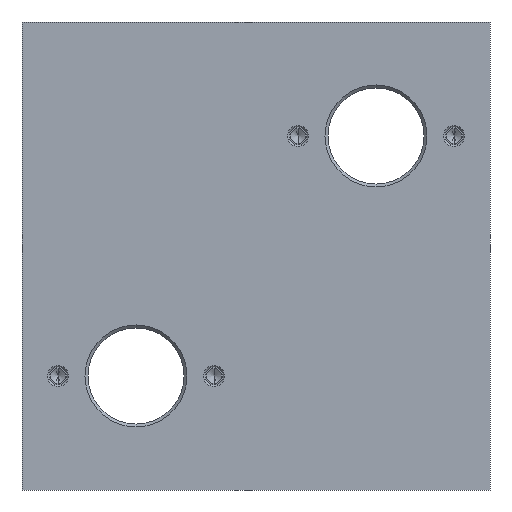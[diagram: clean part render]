
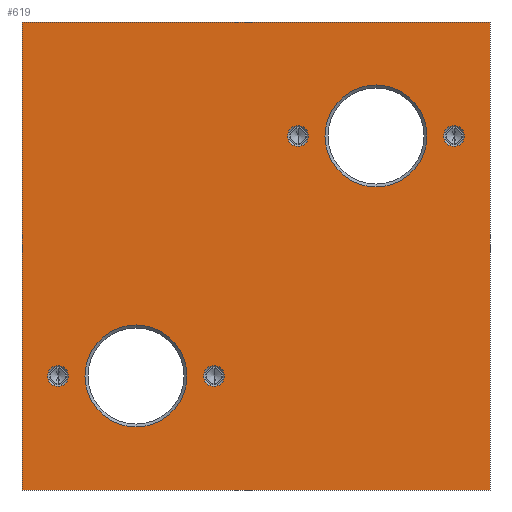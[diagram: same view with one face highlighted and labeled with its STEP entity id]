
A CAD part, front view. The second image highlights one B-rep face of the part: STEP entity #619.
In plain terms, the highlighted planar face has unit normal (0, -1, 0).
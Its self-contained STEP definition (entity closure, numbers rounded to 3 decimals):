
#12 = CARTESIAN_POINT ( 'NONE',  ( 0., 0., 0. ) ) ;
#16 = DIRECTION ( 'NONE',  ( 0., 1., 0. ) ) ;
#27 = CARTESIAN_POINT ( 'NONE',  ( -14., 0., -40. ) ) ;
#49 = AXIS2_PLACEMENT_3D ( 'NONE', #944, #16, #82 ) ;
#59 = DIRECTION ( 'NONE',  ( 0., 0., 1. ) ) ;
#66 = DIRECTION ( 'NONE',  ( 0., 0., -1. ) ) ;
#71 = DIRECTION ( 'NONE',  ( 0., 1., 0. ) ) ;
#74 = DIRECTION ( 'NONE',  ( 0., 0., 1. ) ) ;
#79 = CARTESIAN_POINT ( 'NONE',  ( -66., 0., -43.5 ) ) ;
#82 = DIRECTION ( 'NONE',  ( 0., 0., 1. ) ) ;
#93 = EDGE_LOOP ( 'NONE', ( #319, #755, #1382, #195 ) ) ;
#98 = CIRCLE ( 'NONE', #186, 17. ) ;
#105 = VERTEX_POINT ( 'NONE', #208 ) ;
#113 = EDGE_CURVE ( 'NONE', #1385, #1341, #952, .T. ) ;
#122 = DIRECTION ( 'NONE',  ( 0., 0., 1. ) ) ;
#125 = AXIS2_PLACEMENT_3D ( 'NONE', #244, #1038, #367 ) ;
#128 = EDGE_CURVE ( 'NONE', #1296, #1447, #352, .T. ) ;
#131 = VECTOR ( 'NONE', #74, 1000. ) ;
#141 = CARTESIAN_POINT ( 'NONE',  ( -78., 0., -78. ) ) ;
#143 = ORIENTED_EDGE ( 'NONE', *, *, #693, .T. ) ;
#147 = DIRECTION ( 'NONE',  ( 0., 0., 1. ) ) ;
#150 = AXIS2_PLACEMENT_3D ( 'NONE', #405, #1201, #518 ) ;
#170 = CARTESIAN_POINT ( 'NONE',  ( 78., 0., 78. ) ) ;
#182 = EDGE_LOOP ( 'NONE', ( #955, #201 ) ) ;
#186 = AXIS2_PLACEMENT_3D ( 'NONE', #1317, #635, #1430 ) ;
#193 = EDGE_LOOP ( 'NONE', ( #143, #437 ) ) ;
#195 = ORIENTED_EDGE ( 'NONE', *, *, #902, .F. ) ;
#199 = EDGE_CURVE ( 'NONE', #791, #375, #1154, .T. ) ;
#201 = ORIENTED_EDGE ( 'NONE', *, *, #1014, .T. ) ;
#204 = LINE ( 'NONE', #1066, #1373 ) ;
#208 = CARTESIAN_POINT ( 'NONE',  ( 14., 0., 43.5 ) ) ;
#211 = VECTOR ( 'NONE', #66, 1000. ) ;
#217 = DIRECTION ( 'NONE',  ( 0., 1., 0. ) ) ;
#218 = EDGE_CURVE ( 'NONE', #1447, #1296, #1380, .T. ) ;
#230 = CARTESIAN_POINT ( 'NONE',  ( 66., 0., 40. ) ) ;
#237 = ORIENTED_EDGE ( 'NONE', *, *, #113, .T. ) ;
#244 = CARTESIAN_POINT ( 'NONE',  ( 14., 0., 40. ) ) ;
#258 = AXIS2_PLACEMENT_3D ( 'NONE', #1252, #217, #682 ) ;
#259 = DIRECTION ( 'NONE',  ( 0., 1., 0. ) ) ;
#265 = ORIENTED_EDGE ( 'NONE', *, *, #1216, .T. ) ;
#266 = VERTEX_POINT ( 'NONE', #1413 ) ;
#275 = FACE_BOUND ( 'NONE', #182, .T. ) ;
#298 = CIRCLE ( 'NONE', #462, 17. ) ;
#303 = ORIENTED_EDGE ( 'NONE', *, *, #307, .T. ) ;
#307 = EDGE_CURVE ( 'NONE', #950, #1121, #977, .T. ) ;
#308 = AXIS2_PLACEMENT_3D ( 'NONE', #750, #71, #859 ) ;
#319 = ORIENTED_EDGE ( 'NONE', *, *, #683, .F. ) ;
#352 = CIRCLE ( 'NONE', #49, 3.5 ) ;
#367 = DIRECTION ( 'NONE',  ( 0., 0., 1. ) ) ;
#375 = VERTEX_POINT ( 'NONE', #1158 ) ;
#386 = CARTESIAN_POINT ( 'NONE',  ( 14., 0., 36.5 ) ) ;
#404 = CARTESIAN_POINT ( 'NONE',  ( -40., 0., -40. ) ) ;
#405 = CARTESIAN_POINT ( 'NONE',  ( 14., 0., 40. ) ) ;
#410 = DIRECTION ( 'NONE',  ( 0., 1., 0. ) ) ;
#437 = ORIENTED_EDGE ( 'NONE', *, *, #814, .T. ) ;
#439 = AXIS2_PLACEMENT_3D ( 'NONE', #961, #848, #59 ) ;
#446 = CIRCLE ( 'NONE', #1483, 17. ) ;
#460 = EDGE_LOOP ( 'NONE', ( #303, #265 ) ) ;
#462 = AXIS2_PLACEMENT_3D ( 'NONE', #617, #723, #820 ) ;
#475 = DIRECTION ( 'NONE',  ( 0., 1., 0. ) ) ;
#481 = EDGE_CURVE ( 'NONE', #266, #1463, #910, .T. ) ;
#511 = LINE ( 'NONE', #517, #131 ) ;
#517 = CARTESIAN_POINT ( 'NONE',  ( -78., 0., 78. ) ) ;
#518 = DIRECTION ( 'NONE',  ( 0., 0., 1. ) ) ;
#529 = DIRECTION ( 'NONE',  ( 0., 0., 1. ) ) ;
#537 = EDGE_LOOP ( 'NONE', ( #1111, #237 ) ) ;
#538 = VERTEX_POINT ( 'NONE', #1017 ) ;
#549 = FACE_BOUND ( 'NONE', #1298, .T. ) ;
#561 = VERTEX_POINT ( 'NONE', #1227 ) ;
#563 = EDGE_LOOP ( 'NONE', ( #1204, #785 ) ) ;
#615 = DIRECTION ( 'NONE',  ( -1., 0., 0. ) ) ;
#617 = CARTESIAN_POINT ( 'NONE',  ( -40., 0., -40. ) ) ;
#619 = ADVANCED_FACE ( 'NONE', ( #1186, #1460, #843, #275, #549, #1146, #1415 ), #923, .F. ) ;
#625 = CARTESIAN_POINT ( 'NONE',  ( -66., 0., -36.5 ) ) ;
#635 = DIRECTION ( 'NONE',  ( 0., 1., 0. ) ) ;
#682 = DIRECTION ( 'NONE',  ( 0., 0., 1. ) ) ;
#683 = EDGE_CURVE ( 'NONE', #847, #876, #511, .T. ) ;
#693 = EDGE_CURVE ( 'NONE', #561, #538, #446, .T. ) ;
#698 = ORIENTED_EDGE ( 'NONE', *, *, #481, .T. ) ;
#723 = DIRECTION ( 'NONE',  ( 0., 1., 0. ) ) ;
#750 = CARTESIAN_POINT ( 'NONE',  ( 66., 0., 40. ) ) ;
#755 = ORIENTED_EDGE ( 'NONE', *, *, #1139, .F. ) ;
#767 = CARTESIAN_POINT ( 'NONE',  ( 40., 0., 23. ) ) ;
#785 = ORIENTED_EDGE ( 'NONE', *, *, #218, .T. ) ;
#791 = VERTEX_POINT ( 'NONE', #170 ) ;
#814 = EDGE_CURVE ( 'NONE', #538, #561, #298, .T. ) ;
#819 = DIRECTION ( 'NONE',  ( 0., 1., 0. ) ) ;
#820 = DIRECTION ( 'NONE',  ( 0., 0., 1. ) ) ;
#843 = FACE_BOUND ( 'NONE', #537, .T. ) ;
#847 = VERTEX_POINT ( 'NONE', #141 ) ;
#848 = DIRECTION ( 'NONE',  ( 0., 1., 0. ) ) ;
#859 = DIRECTION ( 'NONE',  ( 0., 0., 1. ) ) ;
#864 = AXIS2_PLACEMENT_3D ( 'NONE', #27, #819, #147 ) ;
#876 = VERTEX_POINT ( 'NONE', #1159 ) ;
#902 = EDGE_CURVE ( 'NONE', #876, #791, #1094, .T. ) ;
#907 = DIRECTION ( 'NONE',  ( 0., 1., 0. ) ) ;
#910 = CIRCLE ( 'NONE', #258, 3.5 ) ;
#920 = CIRCLE ( 'NONE', #308, 3.5 ) ;
#923 = PLANE ( 'NONE',  #1337 ) ;
#937 = DIRECTION ( 'NONE',  ( 0., 0., 1. ) ) ;
#944 = CARTESIAN_POINT ( 'NONE',  ( -66., 0., -40. ) ) ;
#950 = VERTEX_POINT ( 'NONE', #767 ) ;
#952 = CIRCLE ( 'NONE', #1369, 3.5 ) ;
#955 = ORIENTED_EDGE ( 'NONE', *, *, #1442, .T. ) ;
#961 = CARTESIAN_POINT ( 'NONE',  ( -66., 0., -40. ) ) ;
#968 = CARTESIAN_POINT ( 'NONE',  ( -14., 0., -36.5 ) ) ;
#977 = CIRCLE ( 'NONE', #1199, 17. ) ;
#980 = CARTESIAN_POINT ( 'NONE',  ( 78., 0., 78. ) ) ;
#986 = CIRCLE ( 'NONE', #125, 3.5 ) ;
#1014 = EDGE_CURVE ( 'NONE', #105, #1370, #986, .T. ) ;
#1017 = CARTESIAN_POINT ( 'NONE',  ( -40., 0., -23. ) ) ;
#1038 = DIRECTION ( 'NONE',  ( 0., 1., 0. ) ) ;
#1039 = DIRECTION ( 'NONE',  ( 0., 0., 1. ) ) ;
#1053 = CARTESIAN_POINT ( 'NONE',  ( 40., 0., 40. ) ) ;
#1066 = CARTESIAN_POINT ( 'NONE',  ( 78., 0., -78. ) ) ;
#1094 = LINE ( 'NONE', #980, #1360 ) ;
#1111 = ORIENTED_EDGE ( 'NONE', *, *, #1476, .T. ) ;
#1118 = DIRECTION ( 'NONE',  ( 1., 0., 0. ) ) ;
#1121 = VERTEX_POINT ( 'NONE', #1178 ) ;
#1139 = EDGE_CURVE ( 'NONE', #375, #847, #204, .T. ) ;
#1145 = CIRCLE ( 'NONE', #864, 3.5 ) ;
#1146 = FACE_BOUND ( 'NONE', #563, .T. ) ;
#1154 = LINE ( 'NONE', #1208, #211 ) ;
#1158 = CARTESIAN_POINT ( 'NONE',  ( 78., 0., -78. ) ) ;
#1159 = CARTESIAN_POINT ( 'NONE',  ( -78., 0., 78. ) ) ;
#1178 = CARTESIAN_POINT ( 'NONE',  ( 40., 0., 57. ) ) ;
#1186 = FACE_BOUND ( 'NONE', #193, .T. ) ;
#1199 = AXIS2_PLACEMENT_3D ( 'NONE', #1053, #259, #937 ) ;
#1201 = DIRECTION ( 'NONE',  ( 0., 1., 0. ) ) ;
#1204 = ORIENTED_EDGE ( 'NONE', *, *, #128, .T. ) ;
#1208 = CARTESIAN_POINT ( 'NONE',  ( 78., 0., 78. ) ) ;
#1216 = EDGE_CURVE ( 'NONE', #1121, #950, #98, .T. ) ;
#1227 = CARTESIAN_POINT ( 'NONE',  ( -40., 0., -57. ) ) ;
#1252 = CARTESIAN_POINT ( 'NONE',  ( -14., 0., -40. ) ) ;
#1270 = CIRCLE ( 'NONE', #150, 3.5 ) ;
#1284 = CARTESIAN_POINT ( 'NONE',  ( 66., 0., 36.5 ) ) ;
#1292 = CARTESIAN_POINT ( 'NONE',  ( 66., 0., 43.5 ) ) ;
#1296 = VERTEX_POINT ( 'NONE', #79 ) ;
#1298 = EDGE_LOOP ( 'NONE', ( #698, #1322 ) ) ;
#1317 = CARTESIAN_POINT ( 'NONE',  ( 40., 0., 40. ) ) ;
#1322 = ORIENTED_EDGE ( 'NONE', *, *, #1327, .T. ) ;
#1327 = EDGE_CURVE ( 'NONE', #1463, #266, #1145, .T. ) ;
#1337 = AXIS2_PLACEMENT_3D ( 'NONE', #12, #475, #1039 ) ;
#1341 = VERTEX_POINT ( 'NONE', #1284 ) ;
#1360 = VECTOR ( 'NONE', #1118, 1000. ) ;
#1369 = AXIS2_PLACEMENT_3D ( 'NONE', #230, #907, #122 ) ;
#1370 = VERTEX_POINT ( 'NONE', #386 ) ;
#1373 = VECTOR ( 'NONE', #615, 1000. ) ;
#1380 = CIRCLE ( 'NONE', #439, 3.5 ) ;
#1382 = ORIENTED_EDGE ( 'NONE', *, *, #199, .F. ) ;
#1385 = VERTEX_POINT ( 'NONE', #1292 ) ;
#1413 = CARTESIAN_POINT ( 'NONE',  ( -14., 0., -43.5 ) ) ;
#1415 = FACE_OUTER_BOUND ( 'NONE', #93, .T. ) ;
#1430 = DIRECTION ( 'NONE',  ( 0., 0., 1. ) ) ;
#1442 = EDGE_CURVE ( 'NONE', #1370, #105, #1270, .T. ) ;
#1447 = VERTEX_POINT ( 'NONE', #625 ) ;
#1460 = FACE_BOUND ( 'NONE', #460, .T. ) ;
#1463 = VERTEX_POINT ( 'NONE', #968 ) ;
#1476 = EDGE_CURVE ( 'NONE', #1341, #1385, #920, .T. ) ;
#1483 = AXIS2_PLACEMENT_3D ( 'NONE', #404, #410, #529 ) ;
